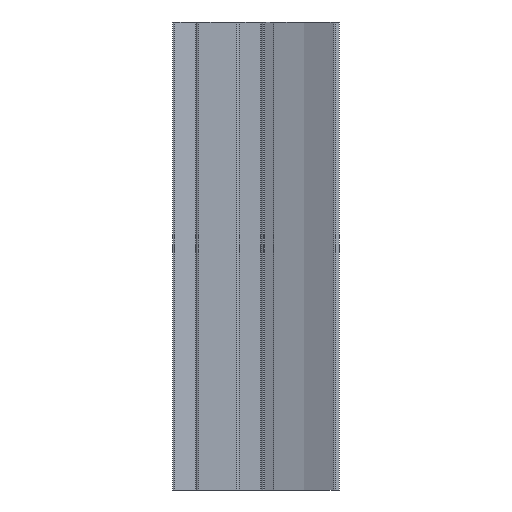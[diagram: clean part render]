
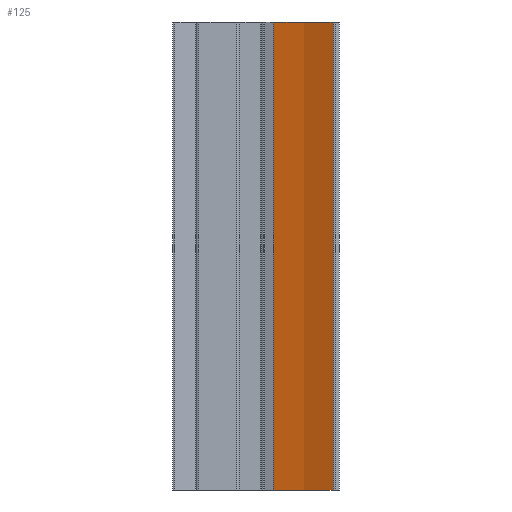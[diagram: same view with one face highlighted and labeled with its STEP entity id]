
A CAD part, left-side view. The second image highlights one B-rep face of the part: STEP entity #125.
In plain terms, the highlighted cylindrical face has radius 39.549 mm (diameter 79.098 mm), a partial arc.
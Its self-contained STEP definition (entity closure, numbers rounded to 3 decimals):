
#91 = EDGE_CURVE ( 'NONE', #1897, #316, #598, .T. ) ;
#106 = ORIENTED_EDGE ( 'NONE', *, *, #342, .T. ) ;
#125 = ADVANCED_FACE ( 'NONE', ( #629 ), #675, .F. ) ;
#127 = ORIENTED_EDGE ( 'NONE', *, *, #1905, .F. ) ;
#129 = ORIENTED_EDGE ( 'NONE', *, *, #140, .T. ) ;
#140 = EDGE_CURVE ( 'NONE', #1898, #281, #649, .T. ) ;
#143 = ORIENTED_EDGE ( 'NONE', *, *, #91, .F. ) ;
#144 = EDGE_LOOP ( 'NONE', ( #106, #143, #127, #129 ) ) ;
#281 = VERTEX_POINT ( 'NONE', #890 ) ;
#316 = VERTEX_POINT ( 'NONE', #900 ) ;
#342 = EDGE_CURVE ( 'NONE', #281, #316, #972, .T. ) ;
#596 = DIRECTION ( 'NONE',  ( 0., 0., -1. ) ) ;
#597 = VECTOR ( 'NONE', #596, 1000. ) ;
#598 = LINE ( 'NONE', #603, #597 ) ;
#603 = CARTESIAN_POINT ( 'NONE',  ( -104.627, 260.35, 100. ) ) ;
#629 = FACE_OUTER_BOUND ( 'NONE', #144, .T. ) ;
#648 = VECTOR ( 'NONE', #658, 1000. ) ;
#649 = LINE ( 'NONE', #656, #648 ) ;
#656 = CARTESIAN_POINT ( 'NONE',  ( -99.31, 279.77, 100. ) ) ;
#658 = DIRECTION ( 'NONE',  ( 0., 0., -1. ) ) ;
#671 = DIRECTION ( 'NONE',  ( -1., 0., 0. ) ) ;
#672 = DIRECTION ( 'NONE',  ( 0., 0., -1. ) ) ;
#673 = CARTESIAN_POINT ( 'NONE',  ( -138.857, 280.16, 100. ) ) ;
#674 = AXIS2_PLACEMENT_3D ( 'NONE', #673, #672, #671 ) ;
#675 = CYLINDRICAL_SURFACE ( 'NONE', #674, 39.549 ) ;
#890 = CARTESIAN_POINT ( 'NONE',  ( -99.31, 279.77, 0. ) ) ;
#900 = CARTESIAN_POINT ( 'NONE',  ( -104.627, 260.35, 0. ) ) ;
#962 = DIRECTION ( 'NONE',  ( 1., 0., 0. ) ) ;
#963 = DIRECTION ( 'NONE',  ( 0., 0., -1. ) ) ;
#964 = CARTESIAN_POINT ( 'NONE',  ( -138.857, 280.16, 0. ) ) ;
#965 = AXIS2_PLACEMENT_3D ( 'NONE', #964, #963, #962 ) ;
#972 = CIRCLE ( 'NONE', #965, 39.549 ) ;
#1289 = DIRECTION ( 'NONE',  ( 1., 0., 0. ) ) ;
#1290 = DIRECTION ( 'NONE',  ( 0., 0., -1. ) ) ;
#1291 = CARTESIAN_POINT ( 'NONE',  ( -138.857, 280.16, 100. ) ) ;
#1296 = AXIS2_PLACEMENT_3D ( 'NONE', #1291, #1290, #1289 ) ;
#1297 = CIRCLE ( 'NONE', #1296, 39.549 ) ;
#1307 = CARTESIAN_POINT ( 'NONE',  ( -104.627, 260.35, 100. ) ) ;
#1312 = CARTESIAN_POINT ( 'NONE',  ( -99.31, 279.77, 100. ) ) ;
#1897 = VERTEX_POINT ( 'NONE', #1307 ) ;
#1898 = VERTEX_POINT ( 'NONE', #1312 ) ;
#1905 = EDGE_CURVE ( 'NONE', #1898, #1897, #1297, .T. ) ;
